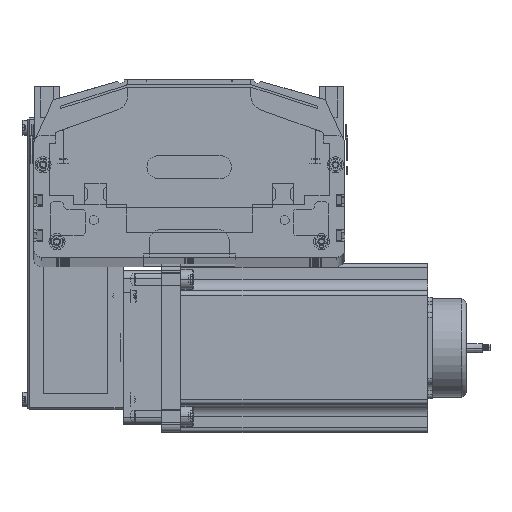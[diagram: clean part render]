
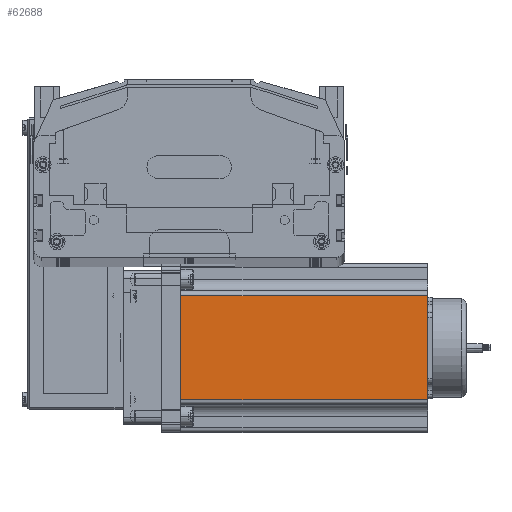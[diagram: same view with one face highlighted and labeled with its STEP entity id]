
A CAD part, top view. The second image highlights one B-rep face of the part: STEP entity #62688.
In plain terms, the highlighted planar face has unit normal (0, 0, 1) as drawn and (0, -1, 0) by its records, which use the part's own axes.
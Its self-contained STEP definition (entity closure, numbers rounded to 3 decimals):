
#28591 = CARTESIAN_POINT ( 'NONE',  ( 21.048, 0., 0. ) ) ;
#30176 = CARTESIAN_POINT ( 'NONE',  ( 21.048, 0., 160.5 ) ) ;
#30214 = DIRECTION ( 'NONE',  ( 1., 0., 0. ) ) ;
#30215 = VECTOR ( 'NONE', #30214, 1000. ) ;
#30217 = CARTESIAN_POINT ( 'NONE',  ( 0., 0., 0. ) ) ;
#30218 = LINE ( 'NONE', #30217, #30215 ) ;
#30220 = CARTESIAN_POINT ( 'NONE',  ( 88.952, 0., 0. ) ) ;
#30222 = DIRECTION ( 'NONE',  ( 0., 0., 1. ) ) ;
#30223 = DIRECTION ( 'NONE',  ( 0., 1., 0. ) ) ;
#30224 = CARTESIAN_POINT ( 'NONE',  ( 0., 0., 160.5 ) ) ;
#30231 = AXIS2_PLACEMENT_3D ( 'NONE', #30224, #30223, #30222 ) ;
#30232 = FACE_OUTER_BOUND ( 'NONE', #62741, .T. ) ;
#30234 = PLANE ( 'NONE',  #30231 ) ;
#30286 = DIRECTION ( 'NONE',  ( 1., 0., 0. ) ) ;
#30287 = VECTOR ( 'NONE', #30286, 1000. ) ;
#30288 = CARTESIAN_POINT ( 'NONE',  ( 0., 0., 160.5 ) ) ;
#30289 = LINE ( 'NONE', #30288, #30287 ) ;
#30331 = DIRECTION ( 'NONE',  ( 0., 0., 1. ) ) ;
#30332 = VECTOR ( 'NONE', #30331, 1000. ) ;
#30333 = CARTESIAN_POINT ( 'NONE',  ( 88.952, 0., 160.5 ) ) ;
#30335 = LINE ( 'NONE', #30333, #30332 ) ;
#30401 = DIRECTION ( 'NONE',  ( 0., 0., -1. ) ) ;
#30402 = VECTOR ( 'NONE', #30401, 1000. ) ;
#30404 = CARTESIAN_POINT ( 'NONE',  ( 21.048, 0., 160.5 ) ) ;
#30405 = LINE ( 'NONE', #30404, #30402 ) ;
#30422 = CARTESIAN_POINT ( 'NONE',  ( 88.952, 0., 160.5 ) ) ;
#62688 = ADVANCED_FACE ( 'NONE', ( #30232 ), #30234, .F. ) ;
#62689 = VERTEX_POINT ( 'NONE', #30176 ) ;
#62690 = EDGE_CURVE ( 'NONE', #62789, #62693, #30218, .T. ) ;
#62693 = VERTEX_POINT ( 'NONE', #30220 ) ;
#62695 = ORIENTED_EDGE ( 'NONE', *, *, #62698, .F. ) ;
#62697 = ORIENTED_EDGE ( 'NONE', *, *, #62778, .T. ) ;
#62698 = EDGE_CURVE ( 'NONE', #62689, #62863, #30289, .T. ) ;
#62741 = EDGE_LOOP ( 'NONE', ( #62747, #62697, #62695, #62804 ) ) ;
#62747 = ORIENTED_EDGE ( 'NONE', *, *, #62690, .T. ) ;
#62778 = EDGE_CURVE ( 'NONE', #62693, #62863, #30335, .T. ) ;
#62789 = VERTEX_POINT ( 'NONE', #28591 ) ;
#62801 = EDGE_CURVE ( 'NONE', #62689, #62789, #30405, .T. ) ;
#62804 = ORIENTED_EDGE ( 'NONE', *, *, #62801, .T. ) ;
#62863 = VERTEX_POINT ( 'NONE', #30422 ) ;
